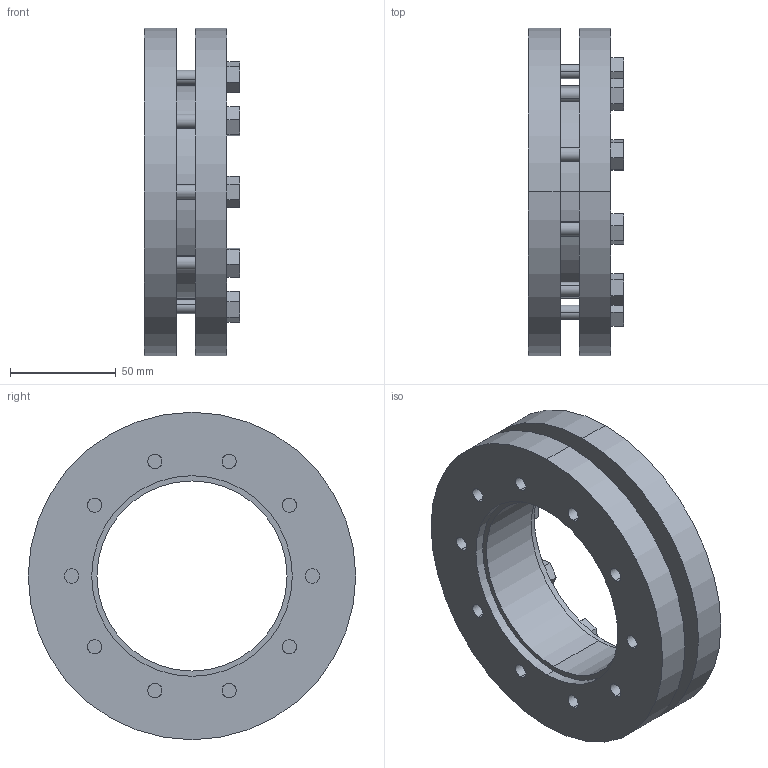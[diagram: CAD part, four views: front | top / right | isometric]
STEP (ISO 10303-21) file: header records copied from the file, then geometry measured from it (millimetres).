
FILE_DESCRIPTION (( 'STEP AP203' ), '1' );
FILE_NAME ('SSD-90.STEP', '2009-09-29T17:41:17', ( 'USER' ), ( 'HOME' ), 'SwSTEP 2.0', 'SolidWorks 2007', '' );
FILE_SCHEMA (( 'CONFIG_CONTROL_DESIGN' ));
Length unit declared in the file: millimetre
Products named in the file (1): SSD-90
Bounding box: 45 x 155 x 155 mm (x, y, z)
Volume: 391527.2 mm3; surface area: 92229.2 mm2
Topology: 11 solids, 11 shells, 168 faces, 396 edges, 264 vertices
Faces by surface type: plane 96, cylinder 72
Entity records: 5005 total; most frequent: DIRECTION 878, CARTESIAN_POINT 829, ORIENTED_EDGE 792, EDGE_CURVE 396, AXIS2_PLACEMENT_3D 313, VERTEX_POINT 264, VECTOR 252, LINE 252
